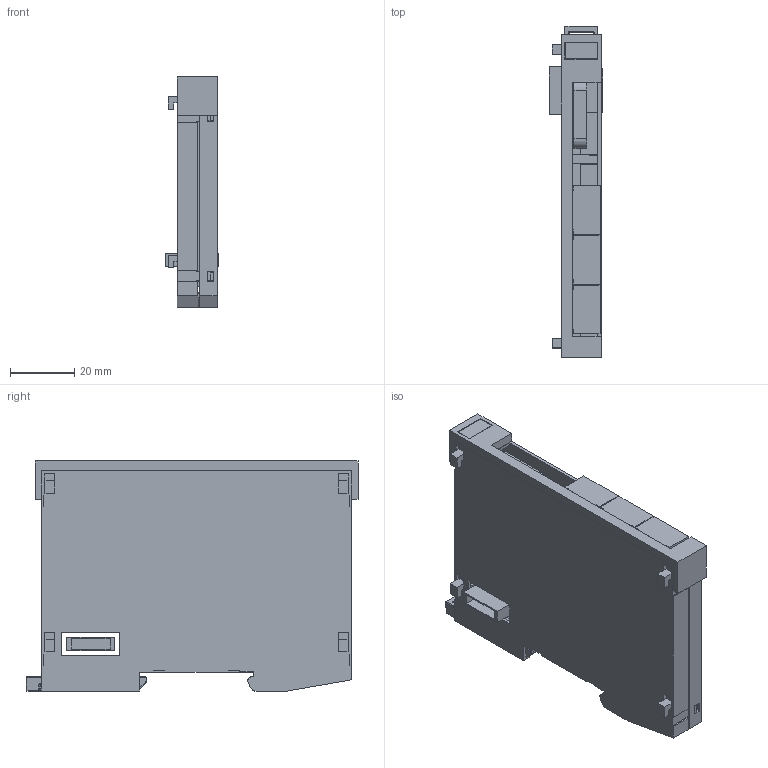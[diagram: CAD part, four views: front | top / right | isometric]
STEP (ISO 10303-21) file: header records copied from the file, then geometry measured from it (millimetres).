
FILE_DESCRIPTION (( 'STEP AP214' ), '1' );
FILE_NAME ('RC001 support.STEP', '2016-04-28T08:04:19', ( 'SIGMATEK GmbH & Co KG' ), ( 'SIGMATEK GmbH & Co KG' ), 'SwSTEP 2.0', 'SolidWorks 2015', '' );
FILE_SCHEMA (( 'AUTOMOTIVE_DESIGN' ));
Length unit declared in the file: millimetre
Products named in the file (11): Steckerabdeckung_Var 9; LP_RC001; Dummy_4080225346 Erni Stift; Dummy_7257771019_Batteriehalter; Dummy_4080225345 Erni Buchse; S-Dias Rasthaken 20130313; Schieber_f Suport; S-Dias Schale rechts_f Suport; S-Dias Schale links_f Suport; 4110251342_MF 10-5 MC CABUR_1854510000; RC001 support
Assembly tree (12 placements, depth 3):
  RC001 support
    4110251342_MF 10-5 MC CABUR_1854510000
    S-Dias Schale links_f Suport
    S-Dias Schale rechts_f Suport
    Schieber_f Suport
    S-Dias Rasthaken 20130313
    LP_RC001
      Dummy_4080225345 Erni Buchse
      Dummy_7257771019_Batteriehalter
      Dummy_4080225346 Erni Stift
    Steckerabdeckung_Var 9  x3
Bounding box: 16.8 x 103.61 x 71.79 mm (x, y, z)
Volume: 23221.8 mm3; surface area: 42184.1 mm2
Topology: 11 solids, 11 shells, 943 faces, 2743 edges, 1816 vertices
Faces by surface type: plane 681, cylinder 151, bspline 55, cone 28, torus 15, sphere 13
Entity records: 31893 total; most frequent: CARTESIAN_POINT 7525, ORIENTED_EDGE 4756, DIRECTION 3729, EDGE_CURVE 2378, VECTOR 1707, LINE 1707, VERTEX_POINT 1580, AXIS2_PLACEMENT_3D 1011
